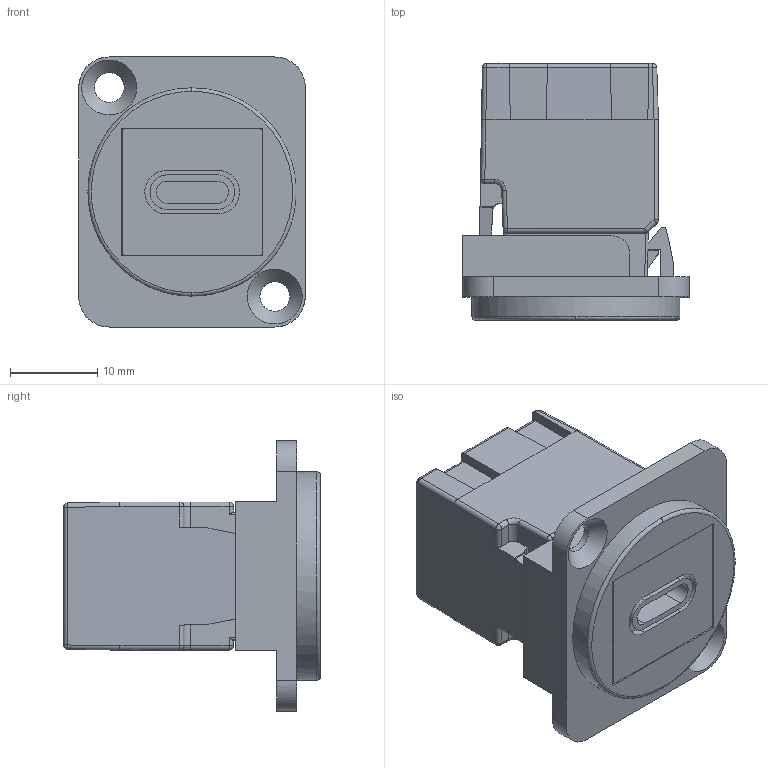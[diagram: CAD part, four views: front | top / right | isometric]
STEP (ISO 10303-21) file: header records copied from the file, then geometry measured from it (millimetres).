
FILE_DESCRIPTION(('FreeCAD Model'),'2;1');
FILE_NAME('Open CASCADE Shape Model','2026-05-13T12:02:26',(''),(''), 'Open CASCADE STEP processor 7.8','FreeCAD','Unknown');
FILE_SCHEMA(('AUTOMOTIVE_DESIGN { 1 0 10303 214 1 1 1 1 }'));
Length unit declared in the file: millimetre
Products named in the file (3): PMNST_USB3C_BK; 3013BUSXLRBK; SY-USB-31-C-BK
Assembly tree (2 placements, depth 2):
  PMNST_USB3C_BK
    3013BUSXLRBK
    SY-USB-31-C-BK
Bounding box: 26 x 29.48 x 31 mm (x, y, z)
Volume: 10518.8 mm3; surface area: 6039.2 mm2
Topology: 4 solids, 4 shells, 212 faces, 1302 edges, 3378 vertices
Faces by surface type: bspline 212
Entity records: 25498 total; most frequent: CARTESIAN_POINT 17728, B_SPLINE_CURVE_WITH_KNOTS 1300, ORIENTED_EDGE 1080, GEOMETRIC_CURVE_SET 761, TRIMMED_CURVE 756, EDGE_CURVE 540, VERTEX_POINT 342, STYLED_ITEM 238
